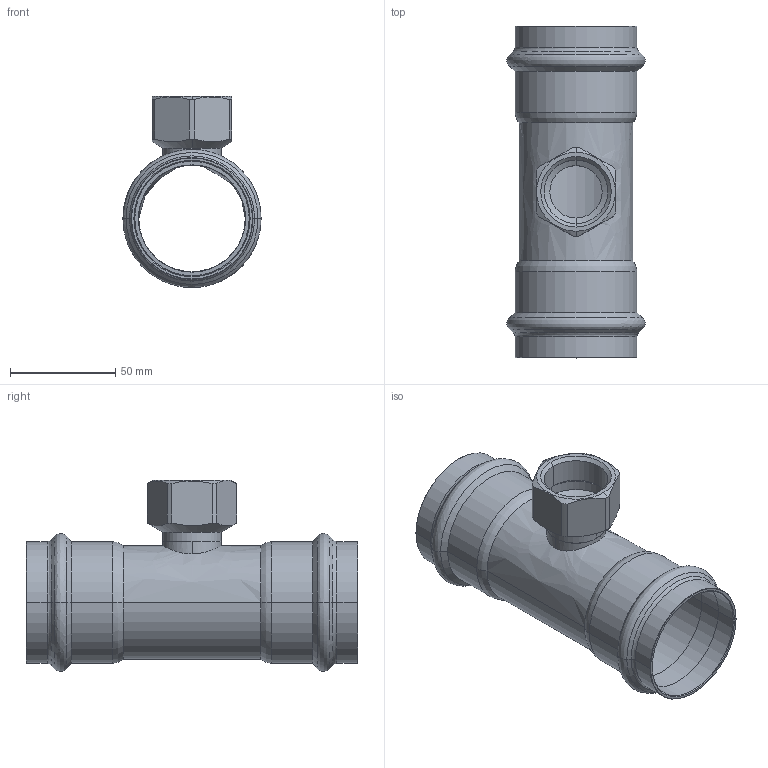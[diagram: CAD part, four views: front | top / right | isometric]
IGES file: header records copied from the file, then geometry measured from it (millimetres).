
Start section: Elysium IGES Interface
Global section: file name: C:\Users\Wallenburg\Desktop\3d modellen sudo\S-Pr VP\SP6130GV\6130GVW54154.igs; native system: CoCreate Modeling 17.00A  17-Jun-2010; preprocessor: CoCreate IGES_3D V2.2; author: Unknown; organization: Unknown; date: 20130123.152241; units: millimetre
Bounding box: 65.68 x 157.73 x 90.83 mm (x, y, z)
Volume: 68132.7 mm3; surface area: 64128.9 mm2
Topology: 1 solids, 1 shells, 116 faces, 252 edges, 144 vertices
Faces by surface type: bspline 116
